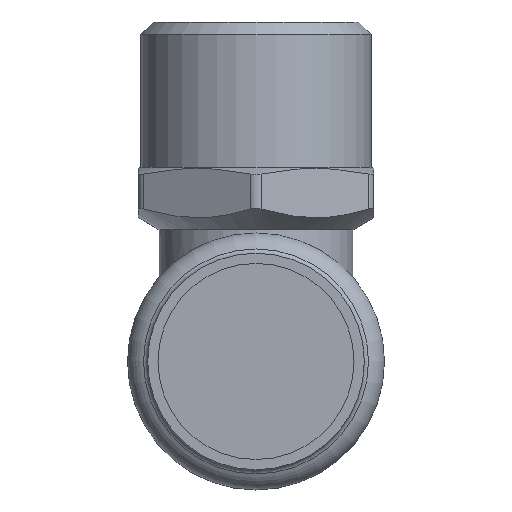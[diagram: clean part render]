
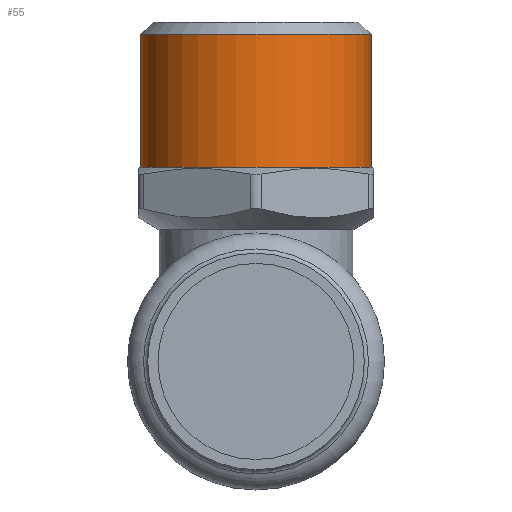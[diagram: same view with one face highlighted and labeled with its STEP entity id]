
A CAD part, front view. The second image highlights one B-rep face of the part: STEP entity #55.
In plain terms, the highlighted cylindrical face has radius 16.625 mm (diameter 33.249 mm), a full revolution.
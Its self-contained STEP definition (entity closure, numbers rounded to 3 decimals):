
#55=ADVANCED_FACE('',(#106,#108),#110,.T.);
#106=FACE_OUTER_BOUND('',#107,.T.);
#107=EDGE_LOOP('',(#398));
#108=FACE_OUTER_BOUND('',#109,.T.);
#109=EDGE_LOOP('',(#399));
#110=CYLINDRICAL_SURFACE('',#111,16.625);
#111=AXIS2_PLACEMENT_3D('',#112,#113,#114);
#112=CARTESIAN_POINT('',(0.,0.,28.));
#113=DIRECTION('',(0.,0.,1.));
#114=DIRECTION('',(-1.,0.,0.));
#398=ORIENTED_EDGE('',*,*,#526,.F.);
#399=ORIENTED_EDGE('',*,*,#527,.T.);
#526=EDGE_CURVE('',#592,#592,#593,.T.);
#527=EDGE_CURVE('',#594,#594,#595,.T.);
#592=VERTEX_POINT('',#713);
#593=CIRCLE('',#714,16.625);
#594=VERTEX_POINT('',#718);
#595=CIRCLE('',#719,16.625);
#713=CARTESIAN_POINT('',(-16.625,0.,47.2));
#714=AXIS2_PLACEMENT_3D('',#715,#716,#717);
#715=CARTESIAN_POINT('',(0.,0.,47.2));
#716=DIRECTION('',(0.,0.,1.));
#717=DIRECTION('',(-1.,0.,0.));
#718=CARTESIAN_POINT('',(-16.625,0.,28.));
#719=AXIS2_PLACEMENT_3D('',#720,#721,#722);
#720=CARTESIAN_POINT('',(0.,0.,28.));
#721=DIRECTION('',(0.,0.,1.));
#722=DIRECTION('',(-1.,0.,0.));
